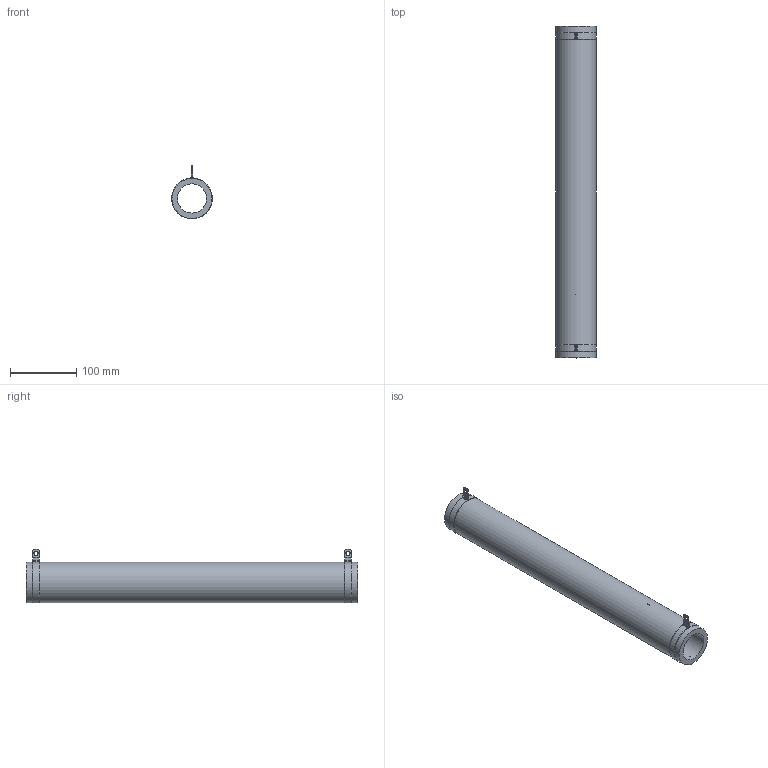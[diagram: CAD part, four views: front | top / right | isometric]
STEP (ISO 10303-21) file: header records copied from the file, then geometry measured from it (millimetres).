
FILE_DESCRIPTION(/* description */ (''),/* implementation_level */ '2;1');
FILE_NAME(/* name */ 'C:\_Vault\Dati\CATALOGO\RCA-RSA\25-1000\CA01K0.stp',/* time_stamp */ '2014-01-22T15:36:53+01:00',/* author */ ('stefano'),/* organization */ (''),/* preprocessor_version */ 'ST-DEVELOPER v15.2',/* originating_system */ 'Autodesk Inventor 2014',/* authorisation */ '');
FILE_SCHEMA (('AUTOMOTIVE_DESIGN { 1 0 10303 214 3 1 1 }'));
Length unit declared in the file: millimetre
Products named in the file (1): CA01K0
Bounding box: 61.47 x 500 x 81 mm (x, y, z)
Volume: 679665.4 mm3; surface area: 168031 mm2
Topology: 1 solids, 1 shells, 75 faces, 181 edges, 112 vertices
Faces by surface type: plane 35, cylinder 28, torus 12
Full cylindrical faces by diameter (mm): 4.2 x1, 6.3 x2, 44 x1, 60.5 x3
Entity records: 2326 total; most frequent: CARTESIAN_POINT 436, DIRECTION 388, ORIENTED_EDGE 344, EDGE_CURVE 172, AXIS2_PLACEMENT_3D 150, VERTEX_POINT 110, EDGE_LOOP 94, LINE 88
